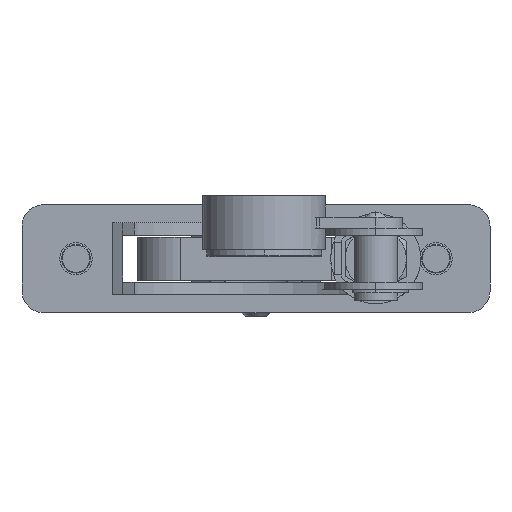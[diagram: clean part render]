
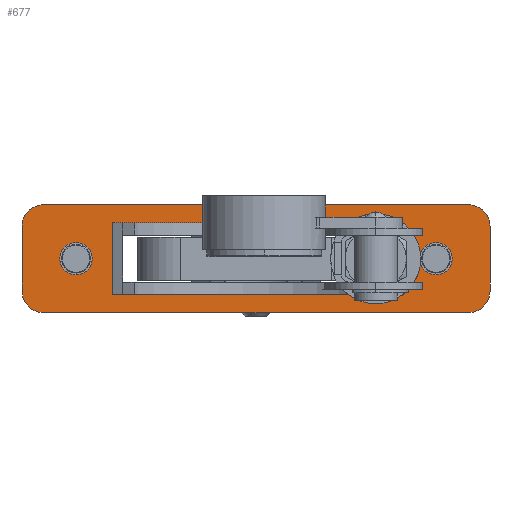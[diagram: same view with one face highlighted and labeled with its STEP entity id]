
A CAD part, front view. The second image highlights one B-rep face of the part: STEP entity #677.
In plain terms, the highlighted planar face has unit normal (0, -1, 0).
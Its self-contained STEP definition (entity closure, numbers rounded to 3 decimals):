
#363 = EDGE_CURVE ( 'NONE', #11365, #475, #4387, .T. ) ;
#452 = EDGE_CURVE ( 'NONE', #11327, #454, #4304, .T. ) ;
#454 = VERTEX_POINT ( 'NONE', #4423 ) ;
#474 = EDGE_CURVE ( 'NONE', #504, #475, #4758, .T. ) ;
#475 = VERTEX_POINT ( 'NONE', #4754 ) ;
#504 = VERTEX_POINT ( 'NONE', #4639 ) ;
#525 = EDGE_CURVE ( 'NONE', #11207, #504, #4576, .T. ) ;
#677 = ADVANCED_FACE ( 'NONE', ( #5042, #5037, #5036, #5035 ), #4888, .F. ) ;
#678 = EDGE_LOOP ( 'NONE', ( #681, #689 ) ) ;
#681 = ORIENTED_EDGE ( 'NONE', *, *, #683, .F. ) ;
#683 = EDGE_CURVE ( 'NONE', #685, #687, #4878, .T. ) ;
#685 = VERTEX_POINT ( 'NONE', #4868 ) ;
#687 = VERTEX_POINT ( 'NONE', #4861 ) ;
#689 = ORIENTED_EDGE ( 'NONE', *, *, #846, .F. ) ;
#690 = EDGE_LOOP ( 'NONE', ( #849, #857 ) ) ;
#846 = EDGE_CURVE ( 'NONE', #687, #685, #5070, .T. ) ;
#849 = ORIENTED_EDGE ( 'NONE', *, *, #851, .F. ) ;
#851 = EDGE_CURVE ( 'NONE', #852, #854, #5244, .T. ) ;
#852 = VERTEX_POINT ( 'NONE', #5239 ) ;
#854 = VERTEX_POINT ( 'NONE', #5238 ) ;
#857 = ORIENTED_EDGE ( 'NONE', *, *, #858, .F. ) ;
#858 = EDGE_CURVE ( 'NONE', #854, #852, #5232, .T. ) ;
#859 = EDGE_LOOP ( 'NONE', ( #860, #861, #863, #865 ) ) ;
#860 = ORIENTED_EDGE ( 'NONE', *, *, #874, .F. ) ;
#861 = ORIENTED_EDGE ( 'NONE', *, *, #452, .F. ) ;
#863 = ORIENTED_EDGE ( 'NONE', *, *, #11226, .T. ) ;
#865 = ORIENTED_EDGE ( 'NONE', *, *, #10961, .T. ) ;
#867 = EDGE_LOOP ( 'NONE', ( #883, #884, #886, #887, #890, #892, #895, #897 ) ) ;
#874 = EDGE_CURVE ( 'NONE', #454, #11404, #5217, .T. ) ;
#883 = ORIENTED_EDGE ( 'NONE', *, *, #11269, .T. ) ;
#884 = ORIENTED_EDGE ( 'NONE', *, *, #11209, .T. ) ;
#886 = ORIENTED_EDGE ( 'NONE', *, *, #525, .T. ) ;
#887 = ORIENTED_EDGE ( 'NONE', *, *, #474, .T. ) ;
#890 = ORIENTED_EDGE ( 'NONE', *, *, #363, .F. ) ;
#892 = ORIENTED_EDGE ( 'NONE', *, *, #11364, .T. ) ;
#895 = ORIENTED_EDGE ( 'NONE', *, *, #11360, .F. ) ;
#897 = ORIENTED_EDGE ( 'NONE', *, *, #11258, .T. ) ;
#4304 = LINE ( 'NONE', #4432, #4431 ) ;
#4384 = DIRECTION ( 'NONE',  ( 0., 0., -1. ) ) ;
#4385 = VECTOR ( 'NONE', #4384, 1000. ) ;
#4386 = CARTESIAN_POINT ( 'NONE',  ( 63.131, -8.904, 19.626 ) ) ;
#4387 = LINE ( 'NONE', #4386, #4385 ) ;
#4423 = CARTESIAN_POINT ( 'NONE',  ( 38.131, -8.904, -5.374 ) ) ;
#4430 = DIRECTION ( 'NONE',  ( 1., 0., 0. ) ) ;
#4431 = VECTOR ( 'NONE', #4430, 1000. ) ;
#4432 = CARTESIAN_POINT ( 'NONE',  ( -41.869, -8.904, -5.374 ) ) ;
#4573 = DIRECTION ( 'NONE',  ( 1., 0., 0. ) ) ;
#4574 = VECTOR ( 'NONE', #4573, 1000. ) ;
#4575 = CARTESIAN_POINT ( 'NONE',  ( -66.869, -8.904, -10.374 ) ) ;
#4576 = LINE ( 'NONE', #4575, #4574 ) ;
#4639 = CARTESIAN_POINT ( 'NONE',  ( 57.131, -8.904, -10.374 ) ) ;
#4754 = CARTESIAN_POINT ( 'NONE',  ( 63.131, -8.904, -4.374 ) ) ;
#4755 = DIRECTION ( 'NONE',  ( -1., 0., 0. ) ) ;
#4756 = DIRECTION ( 'NONE',  ( 0., -1., 0. ) ) ;
#4757 = AXIS2_PLACEMENT_3D ( 'NONE', #4767, #4756, #4755 ) ;
#4758 = CIRCLE ( 'NONE', #4757, 6. ) ;
#4767 = CARTESIAN_POINT ( 'NONE',  ( 57.131, -8.904, -4.374 ) ) ;
#4861 = CARTESIAN_POINT ( 'NONE',  ( -51.869, -8.904, 0.126 ) ) ;
#4868 = CARTESIAN_POINT ( 'NONE',  ( -51.869, -8.904, 9.126 ) ) ;
#4874 = DIRECTION ( 'NONE',  ( 0., 0., 1. ) ) ;
#4875 = DIRECTION ( 'NONE',  ( 0., -1., 0. ) ) ;
#4876 = CARTESIAN_POINT ( 'NONE',  ( -51.869, -8.904, 4.626 ) ) ;
#4877 = AXIS2_PLACEMENT_3D ( 'NONE', #4876, #4875, #4874 ) ;
#4878 = CIRCLE ( 'NONE', #4877, 4.5 ) ;
#4884 = DIRECTION ( 'NONE',  ( -1., 0., 0. ) ) ;
#4885 = DIRECTION ( 'NONE',  ( 0., 1., 0. ) ) ;
#4886 = CARTESIAN_POINT ( 'NONE',  ( -66.869, -8.904, 19.626 ) ) ;
#4887 = AXIS2_PLACEMENT_3D ( 'NONE', #4886, #4885, #4884 ) ;
#4888 = PLANE ( 'NONE',  #4887 ) ;
#5035 = FACE_OUTER_BOUND ( 'NONE', #867, .T. ) ;
#5036 = FACE_BOUND ( 'NONE', #859, .T. ) ;
#5037 = FACE_BOUND ( 'NONE', #690, .T. ) ;
#5042 = FACE_BOUND ( 'NONE', #678, .T. ) ;
#5067 = DIRECTION ( 'NONE',  ( 0., 0., 1. ) ) ;
#5068 = DIRECTION ( 'NONE',  ( 0., -1., 0. ) ) ;
#5069 = AXIS2_PLACEMENT_3D ( 'NONE', #5075, #5068, #5067 ) ;
#5070 = CIRCLE ( 'NONE', #5069, 4.5 ) ;
#5075 = CARTESIAN_POINT ( 'NONE',  ( -51.869, -8.904, 4.626 ) ) ;
#5186 = DIRECTION ( 'NONE',  ( 0., 0., 1. ) ) ;
#5187 = VECTOR ( 'NONE', #5186, 1000. ) ;
#5188 = CARTESIAN_POINT ( 'NONE',  ( 38.131, -8.904, -5.374 ) ) ;
#5217 = LINE ( 'NONE', #5188, #5187 ) ;
#5228 = DIRECTION ( 'NONE',  ( 0., 0., -1. ) ) ;
#5229 = DIRECTION ( 'NONE',  ( 0., -1., 0. ) ) ;
#5230 = CARTESIAN_POINT ( 'NONE',  ( 48.131, -8.904, 4.626 ) ) ;
#5231 = AXIS2_PLACEMENT_3D ( 'NONE', #5230, #5229, #5228 ) ;
#5232 = CIRCLE ( 'NONE', #5231, 4.5 ) ;
#5238 = CARTESIAN_POINT ( 'NONE',  ( 48.131, -8.904, 9.126 ) ) ;
#5239 = CARTESIAN_POINT ( 'NONE',  ( 48.131, -8.904, 0.126 ) ) ;
#5240 = DIRECTION ( 'NONE',  ( 0., 0., -1. ) ) ;
#5241 = DIRECTION ( 'NONE',  ( 0., -1., 0. ) ) ;
#5242 = CARTESIAN_POINT ( 'NONE',  ( 48.131, -8.904, 4.626 ) ) ;
#5243 = AXIS2_PLACEMENT_3D ( 'NONE', #5242, #5241, #5240 ) ;
#5244 = CIRCLE ( 'NONE', #5243, 4.5 ) ;
#8040 = DIRECTION ( 'NONE',  ( 0., -1., 0. ) ) ;
#8041 = CARTESIAN_POINT ( 'NONE',  ( -60.869, -8.904, 13.626 ) ) ;
#8274 = DIRECTION ( 'NONE',  ( -1., 0., 0. ) ) ;
#8814 = CARTESIAN_POINT ( 'NONE',  ( -41.869, -8.904, 14.626 ) ) ;
#8815 = DIRECTION ( 'NONE',  ( 1., 0., 0. ) ) ;
#8816 = VECTOR ( 'NONE', #8815, 1000. ) ;
#8817 = CARTESIAN_POINT ( 'NONE',  ( -41.869, -8.904, 14.626 ) ) ;
#8818 = LINE ( 'NONE', #8817, #8816 ) ;
#9221 = DIRECTION ( 'NONE',  ( -1., 0., 0. ) ) ;
#9222 = DIRECTION ( 'NONE',  ( 0., -1., 0. ) ) ;
#9223 = CARTESIAN_POINT ( 'NONE',  ( -60.869, -8.904, -4.374 ) ) ;
#9224 = AXIS2_PLACEMENT_3D ( 'NONE', #9223, #9222, #9221 ) ;
#9225 = CIRCLE ( 'NONE', #9224, 6. ) ;
#9226 = CARTESIAN_POINT ( 'NONE',  ( -60.869, -8.904, -10.374 ) ) ;
#9262 = DIRECTION ( 'NONE',  ( 0., 0., 1. ) ) ;
#9263 = VECTOR ( 'NONE', #9262, 1000. ) ;
#9264 = CARTESIAN_POINT ( 'NONE',  ( -41.869, -8.904, -5.374 ) ) ;
#9265 = LINE ( 'NONE', #9264, #9263 ) ;
#9268 = AXIS2_PLACEMENT_3D ( 'NONE', #8041, #8040, #8274 ) ;
#9269 = CIRCLE ( 'NONE', #9268, 6. ) ;
#9297 = CARTESIAN_POINT ( 'NONE',  ( -66.869, -8.904, 13.626 ) ) ;
#9321 = DIRECTION ( 'NONE',  ( 0., 0., -1. ) ) ;
#9322 = VECTOR ( 'NONE', #9321, 1000. ) ;
#9323 = CARTESIAN_POINT ( 'NONE',  ( -66.869, -8.904, 19.626 ) ) ;
#9324 = LINE ( 'NONE', #9323, #9322 ) ;
#9325 = CARTESIAN_POINT ( 'NONE',  ( -66.869, -8.904, -4.374 ) ) ;
#9414 = CARTESIAN_POINT ( 'NONE',  ( -41.869, -8.904, -5.374 ) ) ;
#9436 = CARTESIAN_POINT ( 'NONE',  ( -60.869, -8.904, 19.626 ) ) ;
#9482 = CARTESIAN_POINT ( 'NONE',  ( 57.131, -8.904, 19.626 ) ) ;
#9483 = CARTESIAN_POINT ( 'NONE',  ( 63.131, -8.904, 13.626 ) ) ;
#9484 = DIRECTION ( 'NONE',  ( -1., 0., 0. ) ) ;
#9485 = DIRECTION ( 'NONE',  ( 0., -1., 0. ) ) ;
#9486 = CARTESIAN_POINT ( 'NONE',  ( 57.131, -8.904, 13.626 ) ) ;
#9487 = AXIS2_PLACEMENT_3D ( 'NONE', #9486, #9485, #9484 ) ;
#9488 = CIRCLE ( 'NONE', #9487, 6. ) ;
#9489 = DIRECTION ( 'NONE',  ( 1., 0., 0. ) ) ;
#9490 = VECTOR ( 'NONE', #9489, 1000. ) ;
#9491 = CARTESIAN_POINT ( 'NONE',  ( -66.869, -8.904, 19.626 ) ) ;
#9492 = LINE ( 'NONE', #9491, #9490 ) ;
#9540 = CARTESIAN_POINT ( 'NONE',  ( 38.131, -8.904, 14.626 ) ) ;
#10961 = EDGE_CURVE ( 'NONE', #10962, #11404, #8818, .T. ) ;
#10962 = VERTEX_POINT ( 'NONE', #8814 ) ;
#11207 = VERTEX_POINT ( 'NONE', #9226 ) ;
#11209 = EDGE_CURVE ( 'NONE', #11267, #11207, #9225, .T. ) ;
#11226 = EDGE_CURVE ( 'NONE', #11327, #10962, #9265, .T. ) ;
#11241 = VERTEX_POINT ( 'NONE', #9297 ) ;
#11258 = EDGE_CURVE ( 'NONE', #11352, #11241, #9269, .T. ) ;
#11267 = VERTEX_POINT ( 'NONE', #9325 ) ;
#11269 = EDGE_CURVE ( 'NONE', #11241, #11267, #9324, .T. ) ;
#11327 = VERTEX_POINT ( 'NONE', #9414 ) ;
#11352 = VERTEX_POINT ( 'NONE', #9436 ) ;
#11360 = EDGE_CURVE ( 'NONE', #11352, #11366, #9492, .T. ) ;
#11364 = EDGE_CURVE ( 'NONE', #11365, #11366, #9488, .T. ) ;
#11365 = VERTEX_POINT ( 'NONE', #9483 ) ;
#11366 = VERTEX_POINT ( 'NONE', #9482 ) ;
#11404 = VERTEX_POINT ( 'NONE', #9540 ) ;
